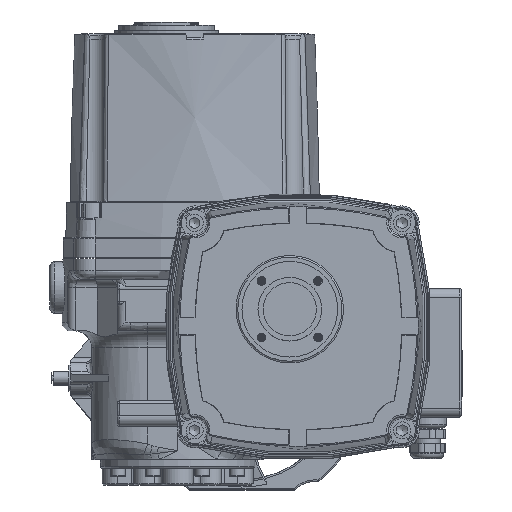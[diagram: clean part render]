
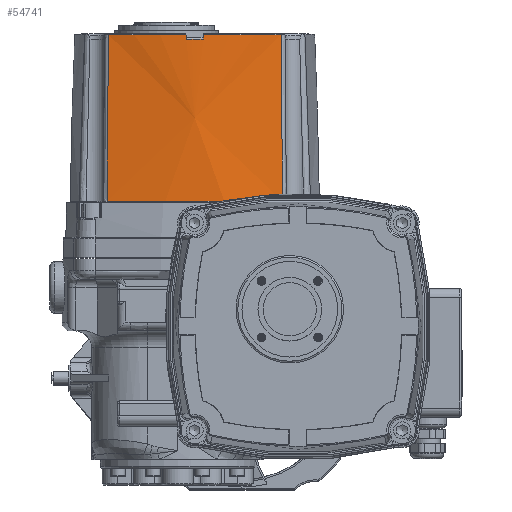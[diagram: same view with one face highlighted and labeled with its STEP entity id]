
A CAD part, top view. The second image highlights one B-rep face of the part: STEP entity #54741.
In plain terms, the highlighted conical face has half-angle 2 degrees and reference radius 228.614 mm.
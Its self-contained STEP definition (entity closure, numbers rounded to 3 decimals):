
#1868=B_SPLINE_CURVE_WITH_KNOTS('',3,(#100700,#100701,#100702,#100703),
 .UNSPECIFIED.,.F.,.F.,(4,4),(0.3,10.004),
 .UNSPECIFIED.);
#1874=B_SPLINE_CURVE_WITH_KNOTS('',3,(#100784,#100785,#100786,#100787),
 .UNSPECIFIED.,.F.,.F.,(4,4),(0.387,10.09),
 .UNSPECIFIED.);
#3048=ELLIPSE('',#59177,7856.388,306.594);
#3049=ELLIPSE('',#59179,7856.388,306.594);
#10584=CONICAL_SURFACE('',#59175,228.614,0.035);
#13154=FACE_OUTER_BOUND('',#16394,.T.);
#16394=EDGE_LOOP('',(#43803,#43804,#43805,#43806,#43807,#43808,#43809,#43810));
#18995=CIRCLE('',#59077,228.58);
#19065=CIRCLE('',#59176,225.194);
#19066=CIRCLE('',#59178,225.283);
#19067=CIRCLE('',#59180,225.194);
#23291=VERTEX_POINT('',#99581);
#23293=VERTEX_POINT('',#99591);
#23378=VERTEX_POINT('',#100689);
#23384=VERTEX_POINT('',#100783);
#23403=VERTEX_POINT('',#101011);
#23404=VERTEX_POINT('',#101013);
#23405=VERTEX_POINT('',#101015);
#23406=VERTEX_POINT('',#101017);
#30329=EDGE_CURVE('',#23293,#23291,#18995,.T.);
#30440=EDGE_CURVE('',#23378,#23293,#1868,.T.);
#30449=EDGE_CURVE('',#23291,#23384,#1874,.T.);
#30480=EDGE_CURVE('',#23403,#23378,#19065,.T.);
#30481=EDGE_CURVE('',#23404,#23403,#3048,.F.);
#30482=EDGE_CURVE('',#23404,#23405,#19066,.F.);
#30483=EDGE_CURVE('',#23405,#23406,#3049,.F.);
#30484=EDGE_CURVE('',#23384,#23406,#19067,.T.);
#43803=ORIENTED_EDGE('',*,*,#30329,.F.);
#43804=ORIENTED_EDGE('',*,*,#30440,.F.);
#43805=ORIENTED_EDGE('',*,*,#30480,.F.);
#43806=ORIENTED_EDGE('',*,*,#30481,.F.);
#43807=ORIENTED_EDGE('',*,*,#30482,.T.);
#43808=ORIENTED_EDGE('',*,*,#30483,.T.);
#43809=ORIENTED_EDGE('',*,*,#30484,.F.);
#43810=ORIENTED_EDGE('',*,*,#30449,.F.);
#54741=ADVANCED_FACE('',(#13154),#10584,.T.);
#59077=AXIS2_PLACEMENT_3D('',#99593,#70055,#70056);
#59175=AXIS2_PLACEMENT_3D('',#101010,#70255,#70256);
#59176=AXIS2_PLACEMENT_3D('',#101012,#70257,#70258);
#59177=AXIS2_PLACEMENT_3D('',#101014,#70259,#70260);
#59178=AXIS2_PLACEMENT_3D('',#101016,#70261,#70262);
#59179=AXIS2_PLACEMENT_3D('',#101018,#70263,#70264);
#59180=AXIS2_PLACEMENT_3D('',#101019,#70265,#70266);
#70055=DIRECTION('center_axis',(0.,-1.,0.));
#70056=DIRECTION('ref_axis',(0.,0.,
1.));
#70255=DIRECTION('center_axis',(0.,-1.,0.));
#70256=DIRECTION('ref_axis',(-0.254,0.,0.967));
#70257=DIRECTION('center_axis',(0.,1.,0.));
#70258=DIRECTION('ref_axis',(-0.254,0.,0.967));
#70259=DIRECTION('center_axis',(0.999,-0.052,0.));
#70260=DIRECTION('ref_axis',(0.052,0.999,0.));
#70261=DIRECTION('center_axis',(0.,1.,0.));
#70262=DIRECTION('ref_axis',(-0.254,0.,0.967));
#70263=DIRECTION('center_axis',(0.999,0.052,0.));
#70264=DIRECTION('ref_axis',(-0.052,0.999,0.));
#70265=DIRECTION('center_axis',(0.,1.,0.));
#70266=DIRECTION('ref_axis',(-0.254,0.,0.967));
#99581=CARTESIAN_POINT('',(-41.118,105.465,62.479));
#99591=CARTESIAN_POINT('',(61.118,105.465,62.479));
#99593=CARTESIAN_POINT('Origin',(10.,105.465,-160.313));
#100689=CARTESIAN_POINT('',(60.33,202.438,59.185));
#100700=CARTESIAN_POINT('Ctrl Pts',(60.33,202.438,59.185));
#100701=CARTESIAN_POINT('Ctrl Pts',(60.416,170.114,60.324));
#100702=CARTESIAN_POINT('Ctrl Pts',(60.678,137.789,61.422));
#100703=CARTESIAN_POINT('Ctrl Pts',(61.118,105.465,62.479));
#100783=CARTESIAN_POINT('',(-40.33,202.438,59.185));
#100784=CARTESIAN_POINT('Ctrl Pts',(-41.118,105.465,
62.479));
#100785=CARTESIAN_POINT('Ctrl Pts',(-40.678,137.789,
61.422));
#100786=CARTESIAN_POINT('Ctrl Pts',(-40.416,170.114,
60.324));
#100787=CARTESIAN_POINT('Ctrl Pts',(-40.33,202.438,
59.185));
#101010=CARTESIAN_POINT('Origin',(10.,104.5,-160.313));
#101011=CARTESIAN_POINT('',(15.133,202.438,64.823));
#101012=CARTESIAN_POINT('Origin',(10.,202.438,-160.313));
#101013=CARTESIAN_POINT('',(15.,199.9,64.915));
#101014=CARTESIAN_POINT('Origin',(-263.975,-5123.262,-160.313));
#101015=CARTESIAN_POINT('',(5.,199.9,64.915));
#101016=CARTESIAN_POINT('Origin',(10.,199.9,-160.313));
#101017=CARTESIAN_POINT('',(4.867,202.438,64.823));
#101018=CARTESIAN_POINT('Origin',(283.975,-5123.262,-160.313));
#101019=CARTESIAN_POINT('Origin',(10.,202.438,-160.313));
